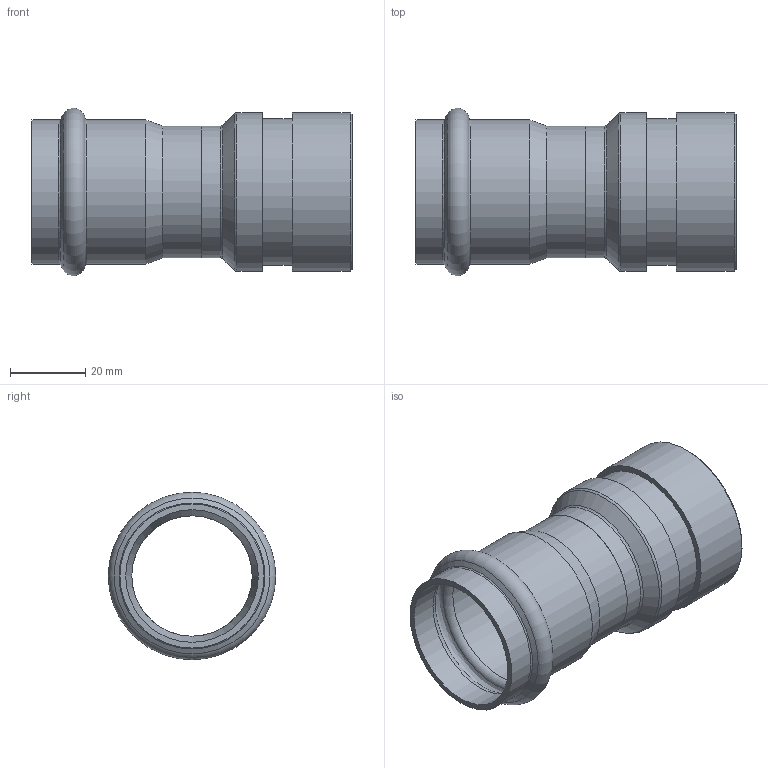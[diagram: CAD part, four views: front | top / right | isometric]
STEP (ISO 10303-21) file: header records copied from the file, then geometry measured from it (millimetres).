
FILE_DESCRIPTION((''),'2;1');
FILE_NAME('G:\Nirosan-Schmiedefeld\Technics\CAD\Bauteile VA\035\6925035424(0).stp','2012-05-18T11:58:30',('herberg'),(''),'Autodesk Inventor 2009','Autodesk Inventor 2009','');
FILE_SCHEMA(('AUTOMOTIVE_DESIGN { 1 0 10303 214 1 1 1 1 }'));
Length unit declared in the file: millimetre
Products named in the file (3): 6925035424(0); HM_6924335(1); sp35424(0)
Assembly tree (2 placements, depth 2):
  6925035424(0)
    HM_6924335(1)
    sp35424(0)
Bounding box: 85 x 44.5 x 44.5 mm (x, y, z)
Volume: 22378.9 mm3; surface area: 21979.6 mm2
Topology: 2 solids, 2 shells, 36 faces, 66 edges, 36 vertices
Faces by surface type: cylinder 12, cone 8, plane 6, torus 5, bspline 5
Full cylindrical faces by diameter (mm): 32 x2, 35 x2, 35.08 x1, 35.25 x2, 38.25 x2, 38.99 x1, 42.2 x2
Entity records: 1057 total; most frequent: CARTESIAN_POINT 369, DIRECTION 144, AXIS2_PLACEMENT_3D 72, ORIENTED_EDGE 72, EDGE_LOOP 72, VERTEX_POINT 36, CIRCLE 36, EDGE_CURVE 36
